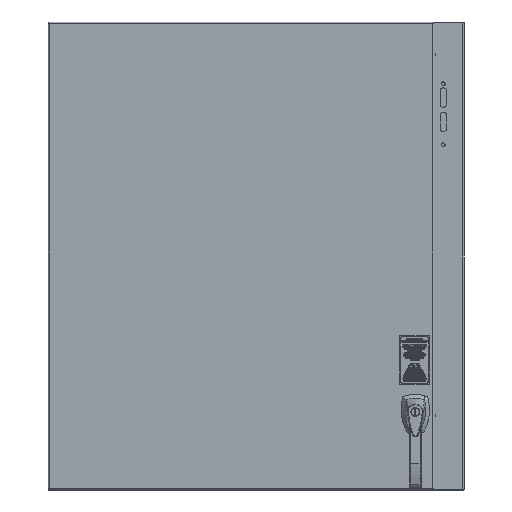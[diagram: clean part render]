
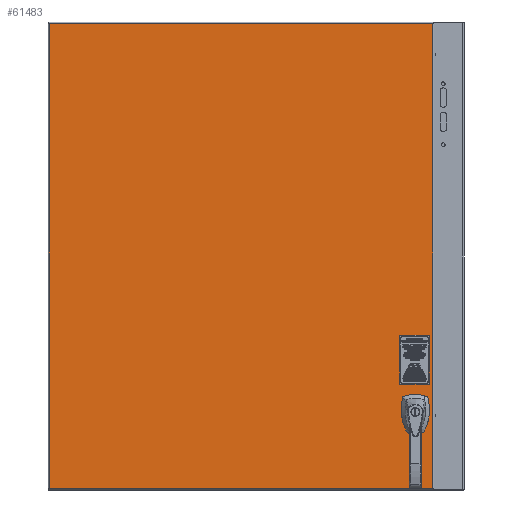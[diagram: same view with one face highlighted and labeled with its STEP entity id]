
A CAD part, front view. The second image highlights one B-rep face of the part: STEP entity #61483.
In plain terms, the highlighted planar face has unit normal (0, -1, 0).
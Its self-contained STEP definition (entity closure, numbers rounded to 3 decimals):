
#6108=LINE('',#82790,#9918);
#6109=LINE('',#82793,#9919);
#6110=LINE('',#82795,#9920);
#6111=LINE('',#82797,#9921);
#6112=LINE('',#82799,#9922);
#6113=LINE('',#82801,#9923);
#6114=LINE('',#82803,#9924);
#6115=LINE('',#82805,#9925);
#6116=LINE('',#82806,#9926);
#6117=LINE('',#82807,#9927);
#6118=LINE('',#82808,#9928);
#6119=LINE('',#82809,#9929);
#9918=VECTOR('',#70399,1000.);
#9919=VECTOR('',#70400,1000.);
#9920=VECTOR('',#70401,1000.);
#9921=VECTOR('',#70402,1000.);
#9922=VECTOR('',#70403,1000.);
#9923=VECTOR('',#70404,1000.);
#9924=VECTOR('',#70405,1000.);
#9925=VECTOR('',#70406,1000.);
#9926=VECTOR('',#70407,1000.);
#9927=VECTOR('',#70408,1000.);
#9928=VECTOR('',#70409,1000.);
#9929=VECTOR('',#70410,1000.);
#15027=ORIENTED_EDGE('',*,*,#33384,.F.);
#15028=ORIENTED_EDGE('',*,*,#33385,.F.);
#15029=ORIENTED_EDGE('',*,*,#33386,.F.);
#15030=ORIENTED_EDGE('',*,*,#33387,.F.);
#15031=ORIENTED_EDGE('',*,*,#33388,.F.);
#15032=ORIENTED_EDGE('',*,*,#33389,.F.);
#15033=ORIENTED_EDGE('',*,*,#33390,.F.);
#15034=ORIENTED_EDGE('',*,*,#33391,.F.);
#15035=ORIENTED_EDGE('',*,*,#33392,.F.);
#15036=ORIENTED_EDGE('',*,*,#33393,.T.);
#15037=ORIENTED_EDGE('',*,*,#33394,.T.);
#15038=ORIENTED_EDGE('',*,*,#33395,.T.);
#15039=ORIENTED_EDGE('',*,*,#33396,.T.);
#33384=EDGE_CURVE('',#42622,#42622,#48714,.T.);
#33385=EDGE_CURVE('',#42623,#42624,#6108,.T.);
#33386=EDGE_CURVE('',#42625,#42623,#6109,.T.);
#33387=EDGE_CURVE('',#42626,#42625,#6110,.T.);
#33388=EDGE_CURVE('',#42627,#42626,#6111,.T.);
#33389=EDGE_CURVE('',#42628,#42627,#6112,.T.);
#33390=EDGE_CURVE('',#42629,#42628,#6113,.T.);
#33391=EDGE_CURVE('',#42630,#42629,#6114,.T.);
#33392=EDGE_CURVE('',#42624,#42630,#6115,.T.);
#33393=EDGE_CURVE('',#42595,#42583,#6116,.T.);
#33394=EDGE_CURVE('',#42583,#42574,#6117,.T.);
#33395=EDGE_CURVE('',#42574,#42601,#6118,.T.);
#33396=EDGE_CURVE('',#42601,#42595,#6119,.T.);
#42574=VERTEX_POINT('',#82665);
#42583=VERTEX_POINT('',#82689);
#42595=VERTEX_POINT('',#82718);
#42601=VERTEX_POINT('',#82737);
#42622=VERTEX_POINT('',#82789);
#42623=VERTEX_POINT('',#82791);
#42624=VERTEX_POINT('',#82792);
#42625=VERTEX_POINT('',#82794);
#42626=VERTEX_POINT('',#82796);
#42627=VERTEX_POINT('',#82798);
#42628=VERTEX_POINT('',#82800);
#42629=VERTEX_POINT('',#82802);
#42630=VERTEX_POINT('',#82804);
#48714=CIRCLE('',#65637,4.242);
#49430=EDGE_LOOP('',(#15027));
#49431=EDGE_LOOP('',(#15028,#15029,#15030,#15031,#15032,#15033,#15034,#15035));
#49432=EDGE_LOOP('',(#15036,#15037,#15038,#15039));
#53976=FACE_BOUND('',#49430,.T.);
#53977=FACE_BOUND('',#49431,.T.);
#53978=FACE_BOUND('',#49432,.T.);
#58374=PLANE('',#65636);
#61483=ADVANCED_FACE('',(#53976,#53977,#53978),#58374,.T.);
#65636=AXIS2_PLACEMENT_3D('',#82787,#70395,#70396);
#65637=AXIS2_PLACEMENT_3D('',#82788,#70397,#70398);
#70395=DIRECTION('',(0.,-1.,0.));
#70396=DIRECTION('',(0.,0.,-1.));
#70397=DIRECTION('',(0.,-1.,0.));
#70398=DIRECTION('',(1.,0.,0.));
#70399=DIRECTION('',(-1.,0.,0.));
#70400=DIRECTION('',(-0.707,0.,0.707));
#70401=DIRECTION('',(0.,0.,1.));
#70402=DIRECTION('',(0.707,0.,0.707));
#70403=DIRECTION('',(1.,0.,0.));
#70404=DIRECTION('',(0.707,0.,-0.707));
#70405=DIRECTION('',(0.,0.,-1.));
#70406=DIRECTION('',(-0.707,0.,-0.707));
#70407=DIRECTION('',(0.,0.,-1.));
#70408=DIRECTION('',(1.,0.,0.));
#70409=DIRECTION('',(0.,0.,1.));
#70410=DIRECTION('',(-1.,0.,0.));
#82665=CARTESIAN_POINT('',(374.288,0.,-454.063));
#82689=CARTESIAN_POINT('',(-374.288,0.,-454.063));
#82718=CARTESIAN_POINT('',(-374.288,0.,454.063));
#82737=CARTESIAN_POINT('',(374.288,0.,454.063));
#82787=CARTESIAN_POINT('',(-374.288,0.,-454.063));
#82788=CARTESIAN_POINT('',(340.519,0.,-338.773));
#82789=CARTESIAN_POINT('',(344.761,0.,-338.773));
#82790=CARTESIAN_POINT('',(346.386,0.,-294.742));
#82791=CARTESIAN_POINT('',(346.386,0.,-294.742));
#82792=CARTESIAN_POINT('',(334.651,0.,-294.742));
#82793=CARTESIAN_POINT('',(346.386,0.,-294.742));
#82794=CARTESIAN_POINT('',(350.564,0.,-298.92));
#82795=CARTESIAN_POINT('',(350.564,0.,-310.655));
#82796=CARTESIAN_POINT('',(350.564,0.,-310.655));
#82797=CARTESIAN_POINT('',(350.564,0.,-310.655));
#82798=CARTESIAN_POINT('',(346.386,0.,-314.833));
#82799=CARTESIAN_POINT('',(334.651,0.,-314.833));
#82800=CARTESIAN_POINT('',(334.651,0.,-314.833));
#82801=CARTESIAN_POINT('',(330.473,0.,-310.655));
#82802=CARTESIAN_POINT('',(330.473,0.,-310.655));
#82803=CARTESIAN_POINT('',(330.473,0.,-298.92));
#82804=CARTESIAN_POINT('',(330.473,0.,-298.92));
#82805=CARTESIAN_POINT('',(334.651,0.,-294.742));
#82806=CARTESIAN_POINT('',(-374.288,0.,454.063));
#82807=CARTESIAN_POINT('',(-374.288,0.,-454.063));
#82808=CARTESIAN_POINT('',(374.288,0.,-454.063));
#82809=CARTESIAN_POINT('',(374.288,0.,454.063));
